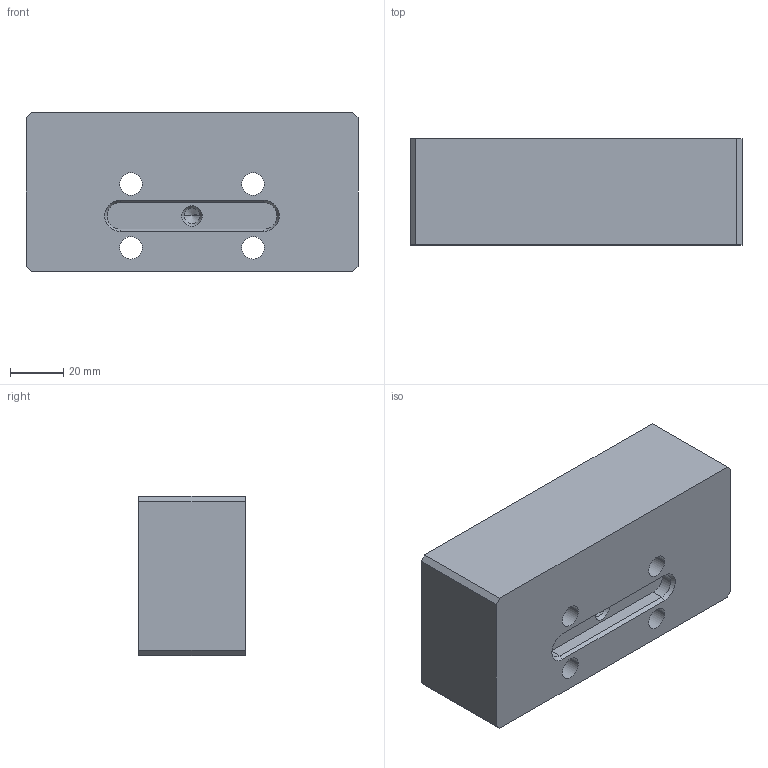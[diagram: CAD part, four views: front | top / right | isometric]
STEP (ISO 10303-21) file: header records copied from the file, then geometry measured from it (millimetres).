
FILE_DESCRIPTION((''),'2;1');
FILE_NAME('FG_VC_SCV_0JAWSNP001','2026-03-05T17:44:03',('Admin'),(''),'CREO PARAMETRIC BY PTC INC, 2025010','CREO PARAMETRIC BY PTC INC, 2025010','');
FILE_SCHEMA(('CONFIG_CONTROL_DESIGN'));
Length unit declared in the file: millimetre
Products named in the file (1): FG_VC_SCV_0JAWSNP001
Bounding box: 125 x 40 x 60 mm (x, y, z)
Volume: 276921.7 mm3; surface area: 36033.1 mm2
Topology: 1 solids, 1 shells, 45 faces, 106 edges, 67 vertices
Faces by surface type: cylinder 20, plane 19, cone 6
Entity records: 1340 total; most frequent: DIRECTION 238, CARTESIAN_POINT 216, ORIENTED_EDGE 208, EDGE_CURVE 104, AXIS2_PLACEMENT_3D 89, VERTEX_POINT 67, VECTOR 60, LINE 60
